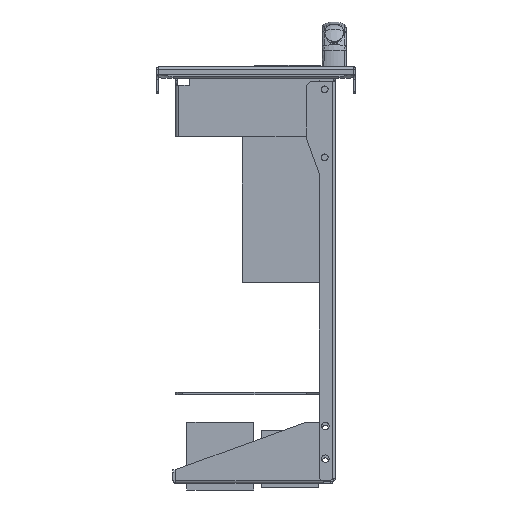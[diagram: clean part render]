
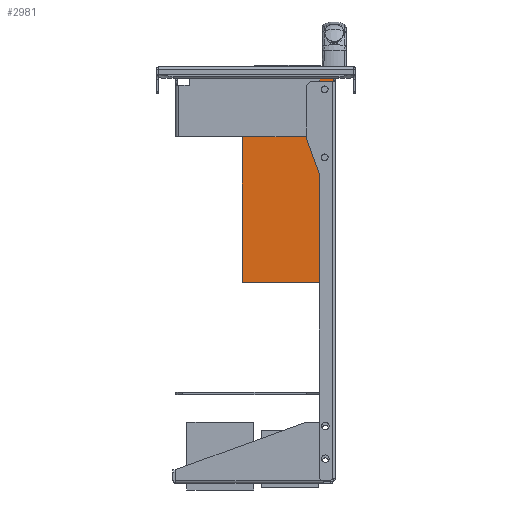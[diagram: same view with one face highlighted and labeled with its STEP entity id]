
A CAD part, left-side view. The second image highlights one B-rep face of the part: STEP entity #2981.
In plain terms, the highlighted planar face has unit normal (-1, 0, 0).
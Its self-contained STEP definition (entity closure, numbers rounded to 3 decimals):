
#2806=DIRECTION(' ',(-1.,-0.,0.));
#2811=CARTESIAN_POINT(' ',(-26.,0.,76.));
#2816=DIRECTION(' ',(0.,1.,0.));
#2821=AXIS2_PLACEMENT_3D(' ',#2811,#2806,#2816);
#2826=PLANE('NONE',#2821);
#2831=CARTESIAN_POINT(' ',(-26.,0.,-76.));
#2836=DIRECTION(' ',(0.,0.,1.));
#2841=VECTOR(' ',#2836,1.);
#2846=LINE('',#2831,#2841);
#2851=CARTESIAN_POINT(' ',(-26.,0.,-76.));
#2852=VERTEX_POINT(' ',#2851);
#2856=CARTESIAN_POINT(' ',(-26.,0.,76.));
#2857=VERTEX_POINT(' ',#2856);
#2861=EDGE_CURVE(' ',#2852,#2857,#2846,.T.);
#2866=ORIENTED_EDGE(' ',*,*,#2861,.T.);
#2871=CARTESIAN_POINT(' ',(-26.,67.,76.));
#2876=DIRECTION(' ',(0.,-1.,0.));
#2881=VECTOR(' ',#2876,1.);
#2886=LINE('',#2871,#2881);
#2891=CARTESIAN_POINT(' ',(-26.,67.,76.));
#2892=VERTEX_POINT(' ',#2891);
#2896=EDGE_CURVE(' ',#2892,#2857,#2886,.T.);
#2901=ORIENTED_EDGE(' ',*,*,#2896,.F.);
#2906=CARTESIAN_POINT(' ',(-26.,67.,-76.));
#2911=DIRECTION(' ',(0.,0.,1.));
#2916=VECTOR(' ',#2911,1.);
#2921=LINE('',#2906,#2916);
#2926=CARTESIAN_POINT(' ',(-26.,67.,-76.));
#2927=VERTEX_POINT(' ',#2926);
#2931=EDGE_CURVE(' ',#2927,#2892,#2921,.T.);
#2936=ORIENTED_EDGE(' ',*,*,#2931,.F.);
#2941=CARTESIAN_POINT(' ',(-26.,67.,-76.));
#2946=DIRECTION(' ',(0.,-1.,0.));
#2951=VECTOR(' ',#2946,1.);
#2956=LINE('',#2941,#2951);
#2961=EDGE_CURVE(' ',#2927,#2852,#2956,.T.);
#2966=ORIENTED_EDGE(' ',*,*,#2961,.T.);
#2971=EDGE_LOOP(' ',(#2866,#2901,#2936,#2966));
#2976=FACE_OUTER_BOUND(' ',#2971,.T.);
#2981=ADVANCED_FACE('NONE',(#2976),#2826,.T.);
